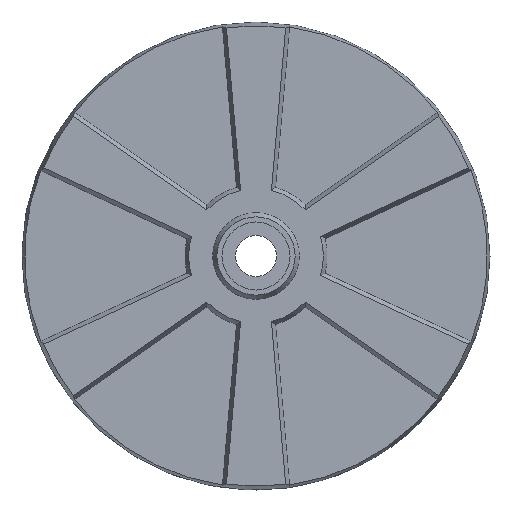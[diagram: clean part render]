
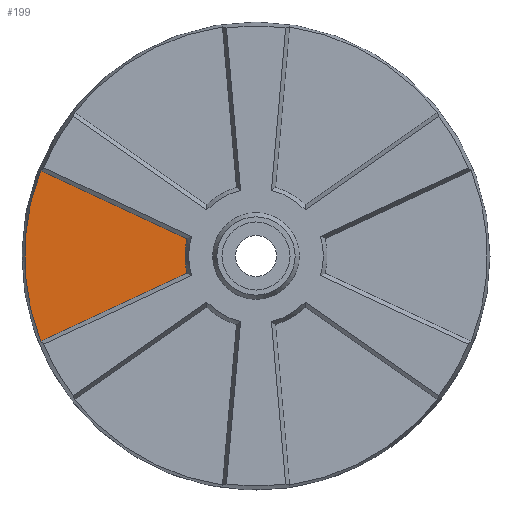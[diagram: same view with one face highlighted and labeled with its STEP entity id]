
A CAD part, front view. The second image highlights one B-rep face of the part: STEP entity #199.
In plain terms, the highlighted planar face has unit normal (0, -1, 0).
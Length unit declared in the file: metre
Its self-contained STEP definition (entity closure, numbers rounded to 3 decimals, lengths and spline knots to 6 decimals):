
#199 = ADVANCED_FACE( '', ( #415 ), #416, .T. );
#415 = FACE_OUTER_BOUND( '', #634, .T. );
#416 = PLANE( '', #635 );
#634 = EDGE_LOOP( '', ( #1149, #1150, #1151, #1152 ) );
#635 = AXIS2_PLACEMENT_3D( '', #1153, #1154, #1155 );
#1149 = ORIENTED_EDGE( '', *, *, #1365, .T. );
#1150 = ORIENTED_EDGE( '', *, *, #1455, .F. );
#1151 = ORIENTED_EDGE( '', *, *, #1430, .T. );
#1152 = ORIENTED_EDGE( '', *, *, #1456, .F. );
#1153 = CARTESIAN_POINT( '', ( -0.033923, -0.0051, 0. ) );
#1154 = DIRECTION( '', ( 0., -1., 0. ) );
#1155 = DIRECTION( '', ( -1., 0., 0. ) );
#1365 = EDGE_CURVE( '', #1673, #1671, #1674, .T. );
#1430 = EDGE_CURVE( '', #1761, #1759, #1762, .T. );
#1455 = EDGE_CURVE( '', #1761, #1671, #1789, .T. );
#1456 = EDGE_CURVE( '', #1673, #1759, #1790, .F. );
#1671 = VERTEX_POINT( '', #2077 );
#1673 = VERTEX_POINT( '', #2082 );
#1674 = LINE( '', #2083, #2084 );
#1759 = VERTEX_POINT( '', #2200 );
#1761 = VERTEX_POINT( '', #2202 );
#1762 = LINE( '', #2203, #2204 );
#1789 = CIRCLE( '', #2243, 0.017264 );
#1790 = CIRCLE( '', #2244, 0.05615 );
#2077 = CARTESIAN_POINT( '', ( -0.016744, -0.0051, -0.004206 ) );
#2082 = CARTESIAN_POINT( '', ( -0.052183, -0.0051, -0.020732 ) );
#2083 = CARTESIAN_POINT( '', ( -0.029244, -0.0051, -0.010035 ) );
#2084 = VECTOR( '', #2450, 1. );
#2200 = CARTESIAN_POINT( '', ( -0.052183, -0.0051, 0.020732 ) );
#2202 = CARTESIAN_POINT( '', ( -0.016744, -0.0051, 0.004206 ) );
#2203 = CARTESIAN_POINT( '', ( -0.029244, -0.0051, 0.010035 ) );
#2204 = VECTOR( '', #2533, 1. );
#2243 = AXIS2_PLACEMENT_3D( '', #2555, #2556, #2557 );
#2244 = AXIS2_PLACEMENT_3D( '', #2558, #2559, #2560 );
#2450 = DIRECTION( '', ( 0.906, 0., 0.423 ) );
#2533 = DIRECTION( '', ( -0.906, 0., 0.423 ) );
#2555 = CARTESIAN_POINT( '', ( 0., -0.0051, 0. ) );
#2556 = DIRECTION( '', ( 0., -1., 0. ) );
#2557 = DIRECTION( '', ( 0., 0., 1. ) );
#2558 = CARTESIAN_POINT( '', ( 0., -0.0051, 0. ) );
#2559 = DIRECTION( '', ( 0., -1., 0. ) );
#2560 = DIRECTION( '', ( 0., 0., -1. ) );
